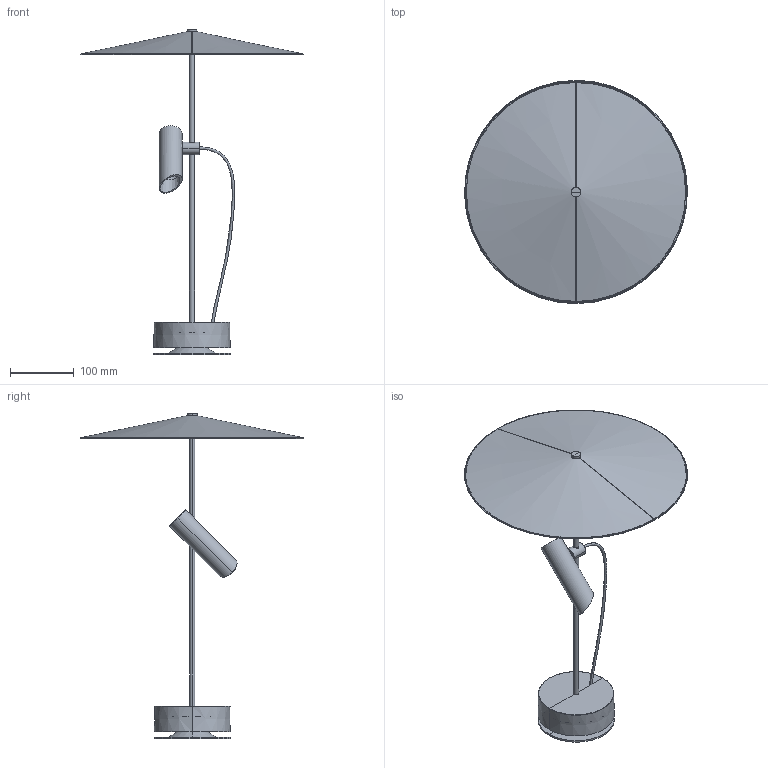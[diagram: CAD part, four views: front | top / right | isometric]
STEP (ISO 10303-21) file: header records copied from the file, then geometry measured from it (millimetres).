
FILE_DESCRIPTION(/* description */ (''),/* implementation_level */ '2;1');
FILE_NAME(/* name */ 'clap_512_beacon_screen_3d.step',/* time_stamp */ '2025-02-26T11:32:39+01:00',/* author */ ('RenataManzini'),/* organization */ (''),/* preprocessor_version */ 'ST-DEVELOPER v20',/* originating_system */ 'AutoCAD Mechanical',/* authorisation */ '');
FILE_SCHEMA (('AUTOMOTIVE_DESIGN { 1 0 10303 214 3 1 1 }'));
Length unit declared in the file: millimetre
Products named in the file (4): Product; CLAP_ lamp - CLAP Proyector-489792-_3D_; CLAP_ pantalla_l - CLAP Accesorio pantalla L negro-489746-_3D_; CLAP_ pantalla_s - CLAP Accesorio pantalla S negro-489752-_3D_
Assembly tree (4 placements, depth 2):
  Product
    CLAP_ pantalla_s - CLAP Accesorio pantalla S negro-489752-_3D_  x2
    CLAP_ lamp - CLAP Proyector-489792-_3D_
    CLAP_ pantalla_l - CLAP Accesorio pantalla L negro-489746-_3D_
Bounding box: 350.15 x 350.8 x 512 mm (x, y, z)
Volume: 703144.8 mm3; surface area: 537797.9 mm2
Topology: 9 solids, 10 shells, 107 faces, 193 edges, 105 vertices
Faces by surface type: plane 53, cylinder 24, cone 22, torus 6, bspline 2
Entity records: 3724 total; most frequent: CARTESIAN_POINT 1839, DIRECTION 420, ORIENTED_EDGE 324, AXIS2_PLACEMENT_3D 174, EDGE_CURVE 162, EDGE_LOOP 96, FACE_OUTER_BOUND 93, ADVANCED_FACE 93
